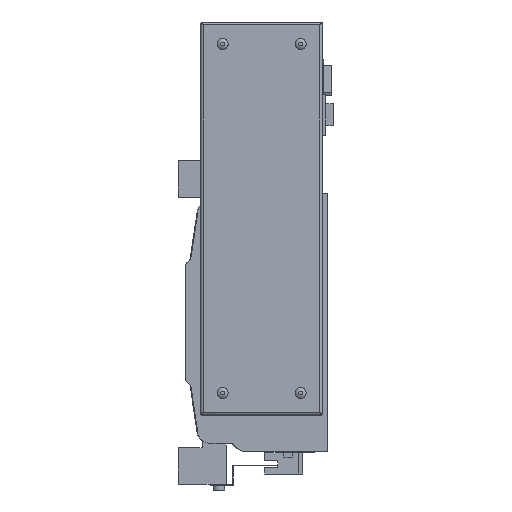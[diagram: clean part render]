
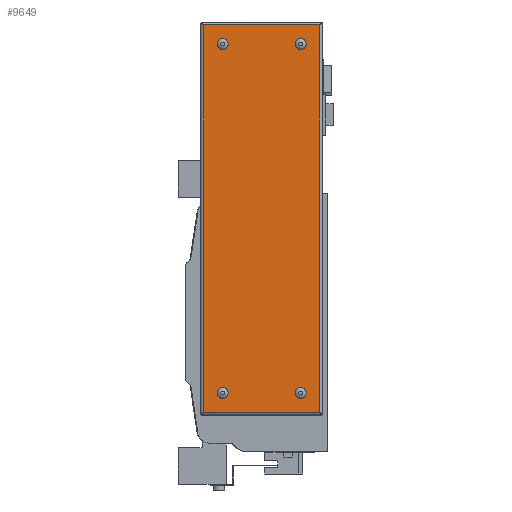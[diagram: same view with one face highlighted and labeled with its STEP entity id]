
A CAD part, left-side view. The second image highlights one B-rep face of the part: STEP entity #9649.
In plain terms, the highlighted planar face has unit normal (-1, 0, 0).
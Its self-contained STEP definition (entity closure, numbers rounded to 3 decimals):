
#277=PLANE('',#10388);
#989=LINE('',#14839,#2079);
#990=LINE('',#14842,#2080);
#991=LINE('',#14844,#2081);
#992=LINE('',#14846,#2082);
#2079=VECTOR('',#12034,1000.);
#2080=VECTOR('',#12035,1000.);
#2081=VECTOR('',#12036,1000.);
#2082=VECTOR('',#12037,1000.);
#3840=ORIENTED_EDGE('',*,*,#5995,.F.);
#3841=ORIENTED_EDGE('',*,*,#5996,.F.);
#3842=ORIENTED_EDGE('',*,*,#5997,.F.);
#3843=ORIENTED_EDGE('',*,*,#5998,.F.);
#3844=ORIENTED_EDGE('',*,*,#5999,.F.);
#3845=ORIENTED_EDGE('',*,*,#6000,.F.);
#3846=ORIENTED_EDGE('',*,*,#6001,.T.);
#3847=ORIENTED_EDGE('',*,*,#6002,.T.);
#5995=EDGE_CURVE('',#7179,#7179,#7809,.F.);
#5996=EDGE_CURVE('',#7180,#7180,#7810,.F.);
#5997=EDGE_CURVE('',#7181,#7181,#7811,.F.);
#5998=EDGE_CURVE('',#7182,#7182,#7812,.F.);
#5999=EDGE_CURVE('',#7183,#7184,#989,.T.);
#6000=EDGE_CURVE('',#7185,#7183,#990,.T.);
#6001=EDGE_CURVE('',#7185,#7186,#991,.T.);
#6002=EDGE_CURVE('',#7186,#7184,#992,.T.);
#7179=VERTEX_POINT('',#14832);
#7180=VERTEX_POINT('',#14834);
#7181=VERTEX_POINT('',#14836);
#7182=VERTEX_POINT('',#14838);
#7183=VERTEX_POINT('',#14840);
#7184=VERTEX_POINT('',#14841);
#7185=VERTEX_POINT('',#14843);
#7186=VERTEX_POINT('',#14845);
#7809=CIRCLE('',#10389,3.7);
#7810=CIRCLE('',#10390,3.7);
#7811=CIRCLE('',#10391,3.7);
#7812=CIRCLE('',#10392,3.7);
#8233=EDGE_LOOP('',(#3840));
#8234=EDGE_LOOP('',(#3841));
#8235=EDGE_LOOP('',(#3842));
#8236=EDGE_LOOP('',(#3843));
#8237=EDGE_LOOP('',(#3844,#3845,#3846,#3847));
#8914=FACE_BOUND('',#8233,.T.);
#8915=FACE_BOUND('',#8234,.T.);
#8916=FACE_BOUND('',#8235,.T.);
#8917=FACE_BOUND('',#8236,.T.);
#8918=FACE_BOUND('',#8237,.T.);
#9649=ADVANCED_FACE('',(#8914,#8915,#8916,#8917,#8918),#277,.F.);
#10388=AXIS2_PLACEMENT_3D('',#14830,#12024,#12025);
#10389=AXIS2_PLACEMENT_3D('',#14831,#12026,#12027);
#10390=AXIS2_PLACEMENT_3D('',#14833,#12028,#12029);
#10391=AXIS2_PLACEMENT_3D('',#14835,#12030,#12031);
#10392=AXIS2_PLACEMENT_3D('',#14837,#12032,#12033);
#12024=DIRECTION('',(1.,0.,0.));
#12025=DIRECTION('',(0.,0.,-1.));
#12026=DIRECTION('',(1.,0.,0.));
#12027=DIRECTION('',(0.,0.,-1.));
#12028=DIRECTION('',(1.,0.,0.));
#12029=DIRECTION('',(0.,0.,-1.));
#12030=DIRECTION('',(1.,0.,0.));
#12031=DIRECTION('',(0.,0.,-1.));
#12032=DIRECTION('',(1.,0.,0.));
#12033=DIRECTION('',(0.,0.,-1.));
#12034=DIRECTION('',(0.,0.,-1.));
#12035=DIRECTION('',(0.,-1.,0.));
#12036=DIRECTION('',(0.,0.,-1.));
#12037=DIRECTION('',(0.,-1.,0.));
#14830=CARTESIAN_POINT('',(-66.,0.,0.));
#14831=CARTESIAN_POINT('',(-66.,18.5,189.));
#14832=CARTESIAN_POINT('',(-66.,18.5,185.3));
#14833=CARTESIAN_POINT('',(-66.,18.5,-48.));
#14834=CARTESIAN_POINT('',(-66.,18.5,-51.7));
#14835=CARTESIAN_POINT('',(-66.,71.5,189.));
#14836=CARTESIAN_POINT('',(-66.,71.5,185.3));
#14837=CARTESIAN_POINT('',(-66.,71.5,-48.));
#14838=CARTESIAN_POINT('',(-66.,71.5,-51.7));
#14839=CARTESIAN_POINT('',(-66.,5.5,267.));
#14840=CARTESIAN_POINT('',(-66.,5.5,202.));
#14841=CARTESIAN_POINT('',(-66.,5.5,-61.));
#14842=CARTESIAN_POINT('',(-66.,267.,202.));
#14843=CARTESIAN_POINT('',(-66.,84.5,202.));
#14844=CARTESIAN_POINT('',(-66.,84.5,267.));
#14845=CARTESIAN_POINT('',(-66.,84.5,-61.));
#14846=CARTESIAN_POINT('',(-66.,267.,-61.));
